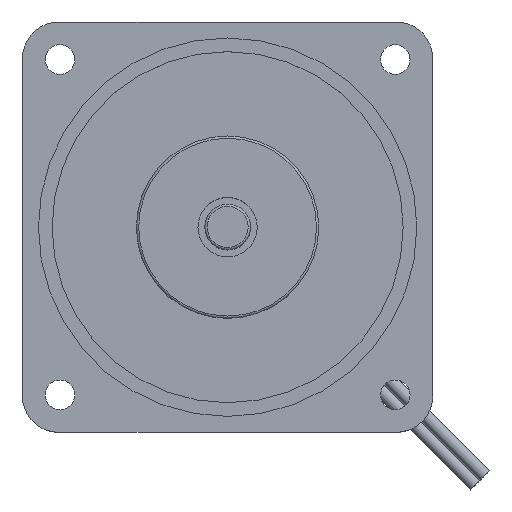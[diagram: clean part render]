
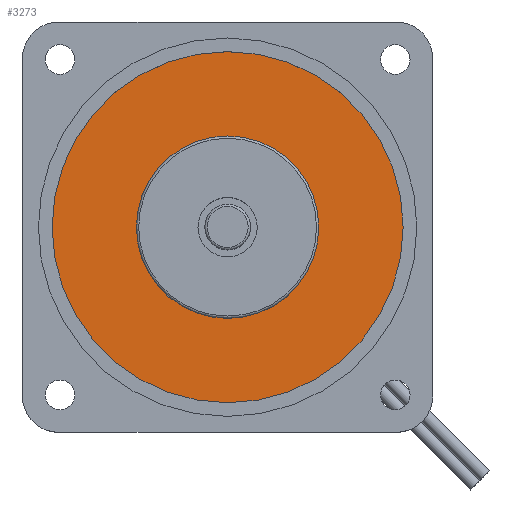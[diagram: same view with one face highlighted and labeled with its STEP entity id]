
A CAD part, top view. The second image highlights one B-rep face of the part: STEP entity #3273.
In plain terms, the highlighted planar face has unit normal (0, 0, 1).
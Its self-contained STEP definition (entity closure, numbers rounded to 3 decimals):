
#3107=CARTESIAN_POINT('',(20.0,0.,6.5));
#3108=VERTEX_POINT('',#3107);
#3109=CARTESIAN_POINT('',(0.0,0.0,6.5));
#3110=DIRECTION('',(0.0,0.0,1.0));
#3111=DIRECTION('',(-1.0,0.0,0.0));
#3112=AXIS2_PLACEMENT_3D('',#3109,#3110,#3111);
#3113=CIRCLE('',#3112,20.0);
#3114=EDGE_CURVE('',#3108,#3108,#3113,.T.);
#3239=CARTESIAN_POINT('',(38.5,0.,6.5));
#3240=VERTEX_POINT('',#3239);
#3241=CARTESIAN_POINT('',(0.0,0.0,6.5));
#3242=DIRECTION('',(0.0,0.0,1.0));
#3243=DIRECTION('',(-1.0,0.0,0.0));
#3244=AXIS2_PLACEMENT_3D('',#3241,#3242,#3243);
#3245=CIRCLE('',#3244,38.5);
#3246=EDGE_CURVE('',#3240,#3240,#3245,.T.);
#3262=CARTESIAN_POINT('',(0.0,0.0,6.5));
#3263=DIRECTION('',(0.0,0.0,-1.0));
#3264=DIRECTION('',(-1.0,0.0,0.0));
#3265=AXIS2_PLACEMENT_3D('',#3262,#3263,#3264);
#3266=PLANE('',#3265);
#3267=ORIENTED_EDGE('',*,*,#3246,.T.);
#3268=EDGE_LOOP('',(#3267));
#3269=FACE_OUTER_BOUND('',#3268,.T.);
#3270=ORIENTED_EDGE('',*,*,#3114,.F.);
#3271=EDGE_LOOP('',(#3270));
#3272=FACE_BOUND('',#3271,.T.);
#3273=ADVANCED_FACE('',(#3269,#3272),#3266,.F.);
